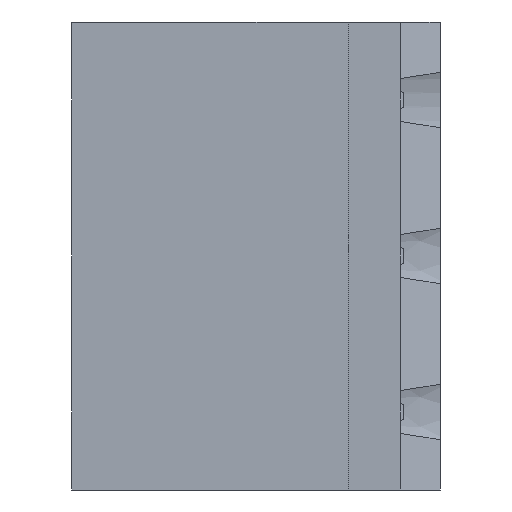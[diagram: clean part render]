
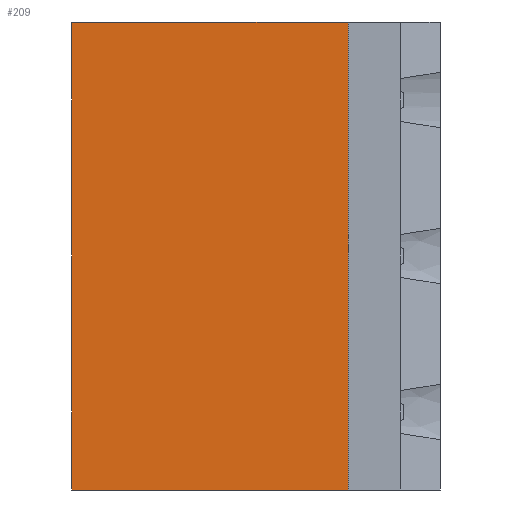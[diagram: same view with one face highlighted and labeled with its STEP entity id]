
A CAD part, left-side view. The second image highlights one B-rep face of the part: STEP entity #209.
In plain terms, the highlighted planar face has unit normal (-1, 0, 0).
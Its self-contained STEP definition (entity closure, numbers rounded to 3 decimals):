
#182 = EDGE_CURVE('',#183,#185,#187,.T.);
#183 = VERTEX_POINT('',#184);
#184 = CARTESIAN_POINT('',(-3.9,3.,15.24));
#185 = VERTEX_POINT('',#186);
#186 = CARTESIAN_POINT('',(-3.9,3.,0.));
#187 = LINE('',#188,#189);
#188 = CARTESIAN_POINT('',(-3.9,3.,15.24));
#189 = VECTOR('',#190,1.);
#190 = DIRECTION('',(0.,0.,-1.));
#209 = ADVANCED_FACE('',(#210),#235,.T.);
#210 = FACE_BOUND('',#211,.F.);
#211 = EDGE_LOOP('',(#212,#222,#228,#229));
#212 = ORIENTED_EDGE('',*,*,#213,.T.);
#213 = EDGE_CURVE('',#214,#216,#218,.T.);
#214 = VERTEX_POINT('',#215);
#215 = CARTESIAN_POINT('',(-3.9,12.,0.));
#216 = VERTEX_POINT('',#217);
#217 = CARTESIAN_POINT('',(-3.9,12.,15.24));
#218 = LINE('',#219,#220);
#219 = CARTESIAN_POINT('',(-3.9,12.,0.));
#220 = VECTOR('',#221,1.);
#221 = DIRECTION('',(0.,0.,1.));
#222 = ORIENTED_EDGE('',*,*,#223,.T.);
#223 = EDGE_CURVE('',#216,#183,#224,.T.);
#224 = LINE('',#225,#226);
#225 = CARTESIAN_POINT('',(-3.9,12.,15.24));
#226 = VECTOR('',#227,1.);
#227 = DIRECTION('',(0.,-1.,0.));
#228 = ORIENTED_EDGE('',*,*,#182,.T.);
#229 = ORIENTED_EDGE('',*,*,#230,.F.);
#230 = EDGE_CURVE('',#214,#185,#231,.T.);
#231 = LINE('',#232,#233);
#232 = CARTESIAN_POINT('',(-3.9,12.,0.));
#233 = VECTOR('',#234,1.);
#234 = DIRECTION('',(0.,-1.,0.));
#235 = PLANE('',#236);
#236 = AXIS2_PLACEMENT_3D('',#237,#238,#239);
#237 = CARTESIAN_POINT('',(-3.9,12.,0.));
#238 = DIRECTION('',(-1.,0.,0.));
#239 = DIRECTION('',(0.,-1.,0.));
